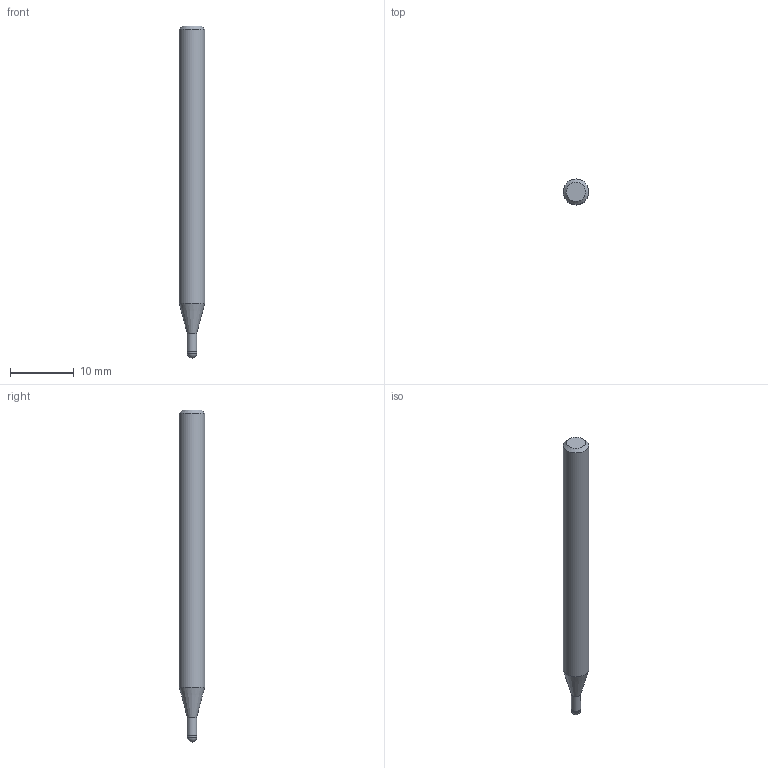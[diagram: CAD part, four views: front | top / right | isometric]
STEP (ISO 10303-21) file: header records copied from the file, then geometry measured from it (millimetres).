
FILE_DESCRIPTION((''),'2;1');
FILE_NAME('C:\Users\nsx150\AppData\Local\Temp\Mastercam 2021\LJSIDMOTM8\TEMP.step','2021-08-03T14:23:10',(''),(''),'STEP Write','Mastercam 2021 ... CNC Software, Inc.','');
FILE_SCHEMA(('AUTOMOTIVE_DESIGN'));
Length unit declared in the file: millimetre
Products named in the file (1): None
Bounding box: 4 x 4 x 52 mm (x, y, z)
Volume: 580.2 mm3; surface area: 617.5 mm2
Topology: 2 solids, 2 shells, 9 faces, 14 edges, 8 vertices
Faces by surface type: plane 3, cylinder 3, cone 2, sphere 1
Full cylindrical faces by diameter (mm): 1.45 x1, 1.5 x1, 4 x1
Entity records: 211 total; most frequent: DIRECTION 36, CARTESIAN_POINT 25, AXIS2_PLACEMENT_3D 18, ORIENTED_EDGE 14, EDGE_LOOP 14, STYLED_ITEM 12, ADVANCED_FACE 9, FACE_BOUND 8
